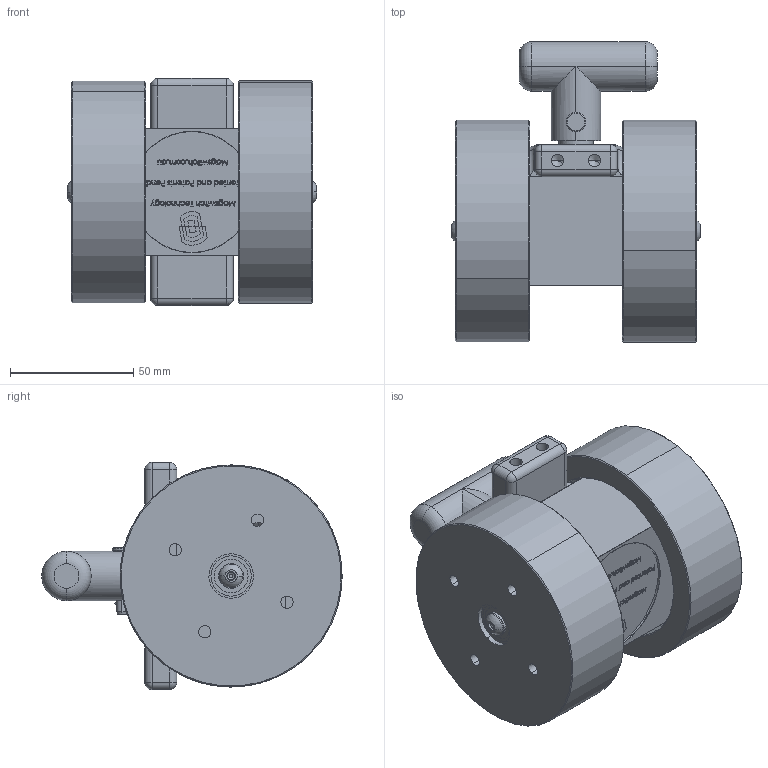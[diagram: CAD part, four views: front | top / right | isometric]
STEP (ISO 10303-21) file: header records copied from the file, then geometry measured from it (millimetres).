
FILE_DESCRIPTION (( 'STEP AP214' ), '1' );
FILE_NAME ('8100075_p.STEP', '2019-07-19T16:49:32', ( '' ), ( '' ), 'SwSTEP 2.0', 'SolidWorks 2018', '' );
FILE_SCHEMA (( 'AUTOMOTIVE_DESIGN' ));
Length unit declared in the file: millimetre
Products named in the file (1): 8100075_p
Bounding box: 101.1 x 121.7 x 92 mm (x, y, z)
Volume: 506678.3 mm3; surface area: 104083.3 mm2
Topology: 38 solids, 40 shells, 1590 faces, 4025 edges, 2559 vertices
Faces by surface type: plane 630, bspline 438, cylinder 256, cone 168, sphere 62, torus 36
Entity records: 85546 total; most frequent: CARTESIAN_POINT 34013, ORIENTED_EDGE 7746, DIRECTION 5833, EDGE_CURVE 3873, VERTEX_POINT 2487, VECTOR 2115, LINE 2115, AXIS2_PLACEMENT_3D 1859
